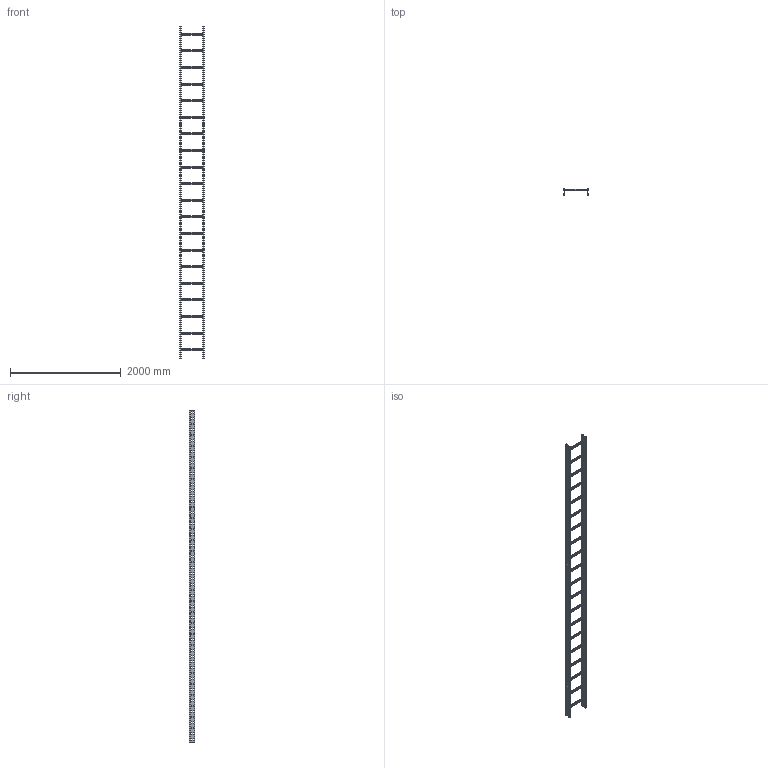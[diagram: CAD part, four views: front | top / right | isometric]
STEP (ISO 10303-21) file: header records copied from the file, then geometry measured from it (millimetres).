
FILE_DESCRIPTION(('Creo Elements/Direct Modeling STEP Export'),'2;1');
FILE_NAME('WP10-40.stp','2016-05-13T13:20:13',(''),(''),'PTC Creo Elements/Direct Modeling STEP processor for AP214 (Solid Model)','PTC Creo Elements/Direct Modeling 19.0C 15-Aug-2015 (C) Parametric Technology GmbH','');
FILE_SCHEMA(('AUTOMOTIVE_DESIGN { 1 0 10303 214 1 1 1 1 }'));
Length unit declared in the file: millimetre
Products named in the file (3): WPSP_04; WPH_100B_S_; WP10-40
Assembly tree (22 placements, depth 2):
  WP10-40
    WPSP_04  x20
    WPH_100B_S_  x2
Bounding box: 450 x 100 x 6000 mm (x, y, z)
Volume: 3966046.1 mm3; surface area: 5393554.8 mm2
Topology: 22 solids, 22 shells, 3276 faces, 9696 edges, 6464 vertices
Faces by surface type: plane 2128, cylinder 1148
Entity records: 22730 total; most frequent: ORIENTED_EDGE 3972, CARTESIAN_POINT 3953, DIRECTION 3487, EDGE_CURVE 1986, VECTOR 1771, LINE 1771, VERTEX_POINT 1324, EDGE_LOOP 976
